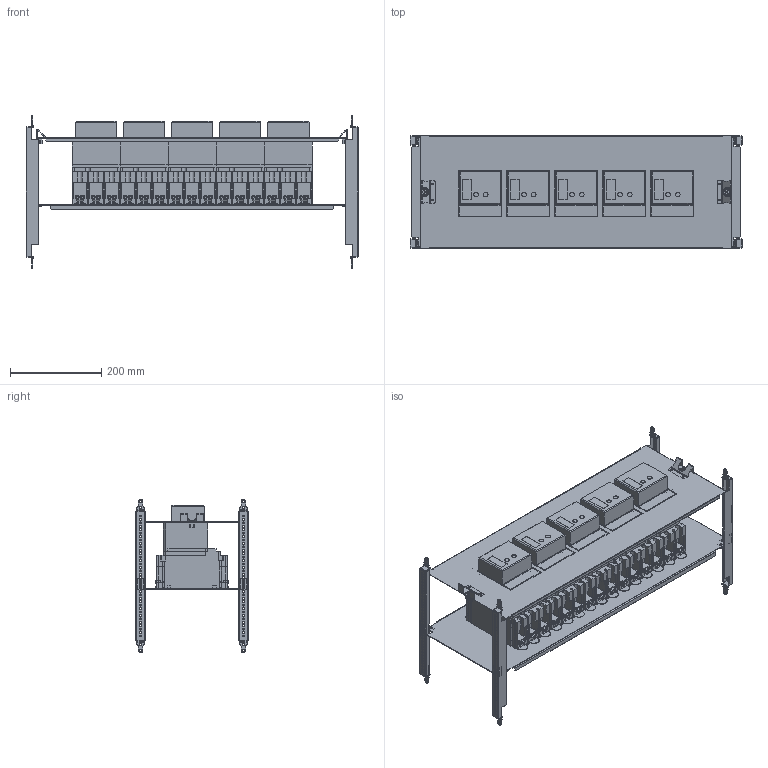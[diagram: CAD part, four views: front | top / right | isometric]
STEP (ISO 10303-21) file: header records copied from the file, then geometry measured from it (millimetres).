
FILE_DESCRIPTION(('CAx-IF Rec.Pracs.---Model Styling and Organization---1.2---2011-12-15','CAx-IF Rec.Pracs.---Geometric and Assembly Validation Properties---4.1---2014-06-16','CAx-IF Rec.Pracs.---PMI Polyline Presentation---2.0---2013-05-24'),'2;1');
FILE_NAME('R5PKIB7V82213 (F-MO).stp','2021-07-29T03:21:48+03:00',(''),(''),'STEP Interface 4.4 by CT CoreTechnologie','3D_Evolution4.4 by CT CoreTechnologie','');
FILE_SCHEMA(('AUTOMOTIVE_DESIGN { 1 0 10303 214 1 1 1 1 }'));
Length unit declared in the file: millimetre
Products named in the file (1): R5PKIB7V82213 (F-MO)
Bounding box: 726 x 248 x 335 mm (x, y, z)
Surface area: 1887673.7 mm2 (no closed solid volume)
Topology: 0 solids, 77 shells, 4873 faces, 14152 edges, 9501 vertices
Faces by surface type: plane 3879, cylinder 817, bspline 177
Entity records: 161385 total; most frequent: CARTESIAN_POINT 30599, ORIENTED_EDGE 28268, DIRECTION 25288, EDGE_CURVE 14134, VECTOR 12174, LINE 12174, VERTEX_POINT 9596, AXIS2_PLACEMENT_3D 6557
